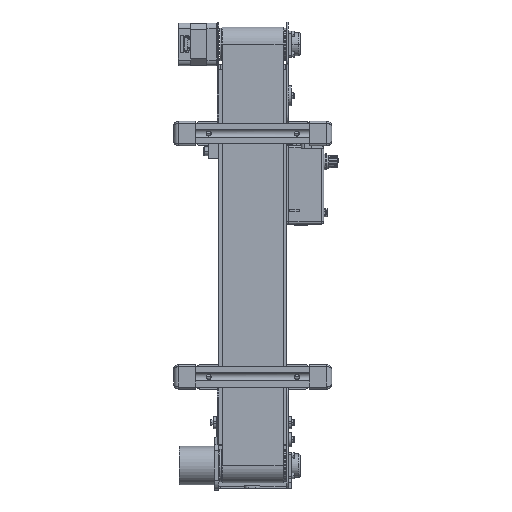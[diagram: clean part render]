
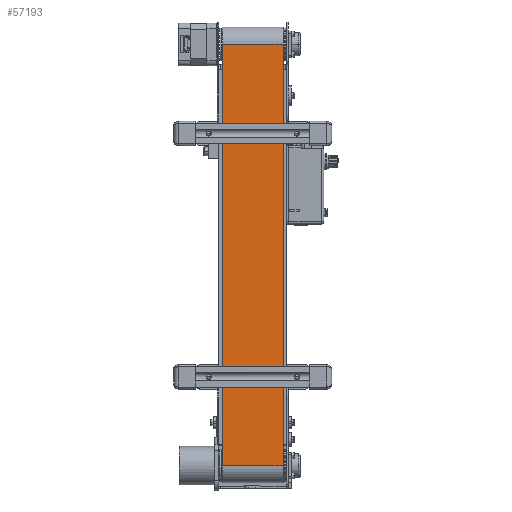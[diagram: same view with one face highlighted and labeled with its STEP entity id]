
A CAD part, front view. The second image highlights one B-rep face of the part: STEP entity #57193.
In plain terms, the highlighted planar face has unit normal (0, -1, 0).
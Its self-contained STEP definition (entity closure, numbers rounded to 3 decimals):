
#804 = DIRECTION ( 'NONE',  ( 0., 0., -1. ) ) ;
#856 = CARTESIAN_POINT ( 'NONE',  ( -69.157, -19.764, 210. ) ) ;
#1231 = AXIS2_PLACEMENT_3D ( 'NONE', #2184, #43667, #38530 ) ;
#2184 = CARTESIAN_POINT ( 'NONE',  ( -69.157, -19.764, 210. ) ) ;
#4744 = LINE ( 'NONE', #25472, #53481 ) ;
#5384 = VERTEX_POINT ( 'NONE', #9808 ) ;
#7907 = FACE_OUTER_BOUND ( 'NONE', #53305, .T. ) ;
#9808 = CARTESIAN_POINT ( 'NONE',  ( -9.157, -19.764, 210. ) ) ;
#15272 = DIRECTION ( 'NONE',  ( 0., 0., -1. ) ) ;
#16079 = LINE ( 'NONE', #32010, #23195 ) ;
#17246 = EDGE_CURVE ( 'NONE', #67277, #21033, #16079, .T. ) ;
#17814 = PLANE ( 'NONE',  #1231 ) ;
#21033 = VERTEX_POINT ( 'NONE', #39949 ) ;
#23195 = VECTOR ( 'NONE', #804, 1000. ) ;
#24878 = ORIENTED_EDGE ( 'NONE', *, *, #27792, .F. ) ;
#25370 = CARTESIAN_POINT ( 'NONE',  ( -69.157, -19.764, -205.5 ) ) ;
#25472 = CARTESIAN_POINT ( 'NONE',  ( -9.157, -19.764, 2.25 ) ) ;
#25723 = LINE ( 'NONE', #25370, #49624 ) ;
#26114 = CARTESIAN_POINT ( 'NONE',  ( -69.157, -19.764, 210. ) ) ;
#27792 = EDGE_CURVE ( 'NONE', #37053, #21033, #25723, .T. ) ;
#28423 = VECTOR ( 'NONE', #58209, 1000. ) ;
#29217 = LINE ( 'NONE', #26114, #28423 ) ;
#32010 = CARTESIAN_POINT ( 'NONE',  ( -69.157, -19.764, 2.25 ) ) ;
#37053 = VERTEX_POINT ( 'NONE', #60103 ) ;
#38530 = DIRECTION ( 'NONE',  ( 0., 0., -1. ) ) ;
#38727 = ORIENTED_EDGE ( 'NONE', *, *, #17246, .T. ) ;
#39949 = CARTESIAN_POINT ( 'NONE',  ( -69.157, -19.764, -205.5 ) ) ;
#42371 = ORIENTED_EDGE ( 'NONE', *, *, #50425, .T. ) ;
#43667 = DIRECTION ( 'NONE',  ( 0., -1., 0. ) ) ;
#45821 = DIRECTION ( 'NONE',  ( -1., 0., 0. ) ) ;
#49624 = VECTOR ( 'NONE', #45821, 1000. ) ;
#50425 = EDGE_CURVE ( 'NONE', #5384, #67277, #29217, .T. ) ;
#53305 = EDGE_LOOP ( 'NONE', ( #65425, #42371, #38727, #24878 ) ) ;
#53481 = VECTOR ( 'NONE', #15272, 1000. ) ;
#57193 = ADVANCED_FACE ( 'NONE', ( #7907 ), #17814, .T. ) ;
#58209 = DIRECTION ( 'NONE',  ( -1., 0., 0. ) ) ;
#60103 = CARTESIAN_POINT ( 'NONE',  ( -9.157, -19.764, -205.5 ) ) ;
#65425 = ORIENTED_EDGE ( 'NONE', *, *, #66668, .F. ) ;
#66668 = EDGE_CURVE ( 'NONE', #5384, #37053, #4744, .T. ) ;
#67277 = VERTEX_POINT ( 'NONE', #856 ) ;
